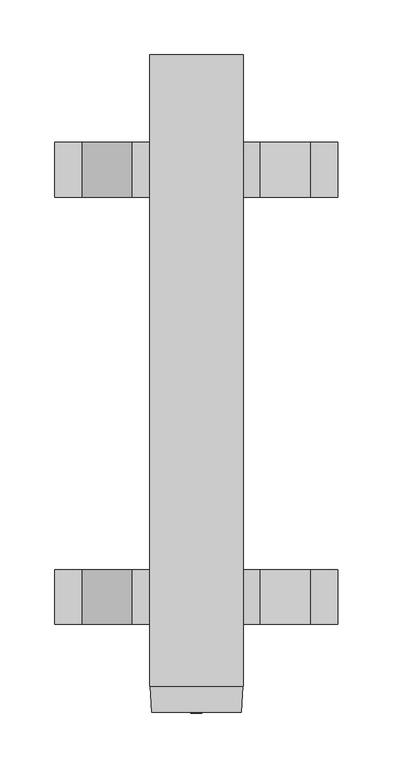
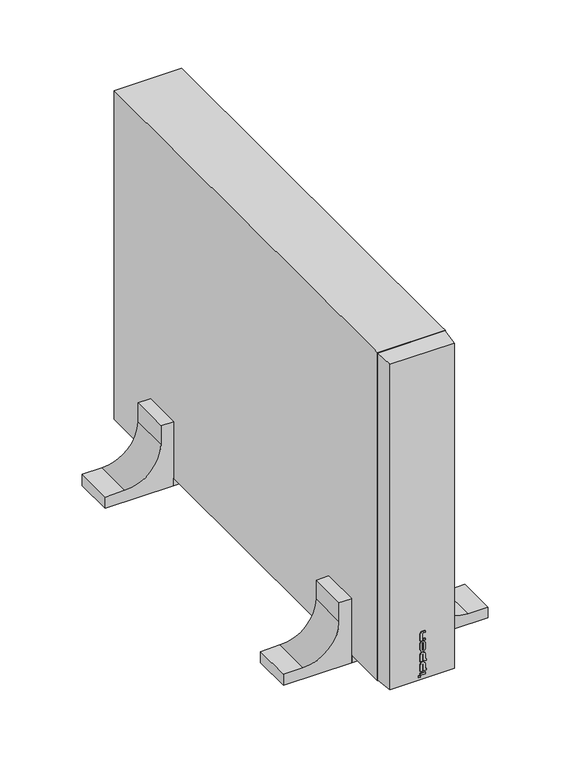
"""IFC4 building model written with IfcOpenShell, lengths in millimetres: proxy geometry, IPPON_EBM_Innova RT II_1000-1500_2000-3000ВА : EBM INNOVA RT II 2000/3000 ВА."""

from ifc_helpers import new_model, si_unit, point, frame, frame_2d, origin, origin_with_axes, place, context, project, spatial, polyline, circle_curve, trimmed, segment, composite_curve, outline, extrude, faceted_brep, source, transform, mapped, element, save


def electrical_equipment_a63d0ca0(model_context):
    return source(origin(), model_context, "Body", "SolidModel", [
        extrude(outline(polyline([(-2.7362511, -1.0), (-5.0362511, -1.0), (-5.0362511, 0.0), (-2.7362511, 0.0), (-2.7362511, -1.0)])), frame((0.0, 0.0, 16.0), z_axis=(0.0, 0.0, 1.0), x_axis=(1.0, 0.0, 0.0)), (0.0, 0.0, 1.0), 2.0),
        extrude(outline(polyline([(3.2637489, -1.0), (1.0369258, -1.0), (1.0369258, 0.0), (3.2637489, 0.0), (3.2637489, -1.0)])), frame((0.0, 0.0, 63.7753606), z_axis=(0.0, 0.0, 1.0), x_axis=(1.0, 0.0, 0.0)), (0.0, 0.0, 1.0), 2.0),
        extrude(outline(polyline([(3.2637489, -1.0), (-2.7362511, -1.0), (-2.7362511, 0.0), (3.2637489, 0.0), (3.2637489, -1.0)])), frame((0.0, 0.0, 18.6884808), z_axis=(0.0, 0.0, 1.0), x_axis=(1.0, 0.0, 0.0)), (0.0, 0.0, 1.0), 2.0447674),
        extrude(outline(composite_curve([segment(polyline([(22.9477024, -0.4738111), (32.1794597, -0.4738111)]), True, "CONTINUOUS"), segment(trimmed(circle_curve(frame_2d((32.1794597, 0.3826682)), 0.8564793), [point((32.1794597, -0.4738111))], [point((32.1794597, 1.2391475))], True, "CARTESIAN"), True, "CONTINUOUS"), segment(polyline([(32.1794597, 1.2391475), (22.9477024, 1.2391475), (22.9477024, 4.7296521), (24.9477024, 4.7296521), (24.9477024, 3.2637489), (32.0232097, 3.2637489)]), True, "CONTINUOUS"), segment(trimmed(circle_curve(frame_2d((32.0232097, 0.2637489)), 3.0), [point((32.0232097, 3.2637489))], [point((32.0232097, -2.7362511))], False, "CARTESIAN"), True, "CONTINUOUS"), segment(polyline([(32.0232097, -2.7362511), (22.9477024, -2.7362511), (22.9477024, -0.4738111)]), True, "CONTINUOUS")], self_intersect=False)), frame((0.0, -1.0, 0.0), z_axis=(0.0, 1.0, 0.0), x_axis=(0.0, 0.0, 1.0)), (0.0, 0.0, 1.0), 1.0),
        extrude(outline(composite_curve([segment(polyline([(36.1547042, -0.4738111), (45.3864614, -0.4738111)]), True, "CONTINUOUS"), segment(trimmed(circle_curve(frame_2d((45.3864614, 0.3826682)), 0.8564793), [point((45.3864614, -0.4738111))], [point((45.3864614, 1.2391475))], True, "CARTESIAN"), True, "CONTINUOUS"), segment(polyline([(45.3864614, 1.2391475), (36.1547042, 1.2391475), (36.1547042, 4.7296521), (38.1547042, 4.7296521), (38.1547042, 3.2637489), (45.2302114, 3.2637489)]), True, "CONTINUOUS"), segment(trimmed(circle_curve(frame_2d((45.2302114, 0.2637489)), 3.0), [point((45.2302114, 3.2637489))], [point((45.2302114, -2.7362511))], False, "CARTESIAN"), True, "CONTINUOUS"), segment(polyline([(45.2302114, -2.7362511), (36.1547042, -2.7362511), (36.1547042, -0.4738111)]), True, "CONTINUOUS")], self_intersect=False)), frame((0.0, -1.0, 0.0), z_axis=(0.0, 1.0, 0.0), x_axis=(0.0, 0.0, 1.0)), (0.0, 0.0, 1.0), 1.0),
        extrude(outline(composite_curve([segment(trimmed(circle_curve(frame_2d((59.7304703, 0.2637489)), 3.0), [point((59.7304703, 3.2637489))], [point((59.7304703, -2.7362511))], False, "CARTESIAN"), True, "CONTINUOUS"), segment(polyline([(59.7304703, -2.7362511), (52.1304703, -2.7362511)]), True, "CONTINUOUS"), segment(trimmed(circle_curve(frame_2d((52.1304703, 0.2637489)), 3.0), [point((52.1304703, -2.7362511))], [point((52.1304703, 3.2637489))], False, "CARTESIAN"), True, "CONTINUOUS"), segment(polyline([(52.1304703, 3.2637489), (59.7304703, 3.2637489)]), True, "CONTINUOUS")], self_intersect=False), holes=[composite_curve([segment(polyline([(59.8867203, 1.2391475), (51.9742203, 1.2391475)]), True, "CONTINUOUS"), segment(trimmed(circle_curve(frame_2d((51.9742203, 0.3826682)), 0.8564793), [point((51.9742203, 1.2391475))], [point((51.9742203, -0.4738111))], True, "CARTESIAN"), True, "CONTINUOUS"), segment(polyline([(51.9742203, -0.4738111), (59.8867203, -0.4738111)]), True, "CONTINUOUS"), segment(trimmed(circle_curve(frame_2d((59.8867203, 0.3826682)), 0.8564793), [point((59.8867203, -0.4738111))], [point((59.8867203, 1.2391475))], True, "CARTESIAN"), True, "CONTINUOUS")], self_intersect=False)]), frame((0.0, -1.0, 0.0), z_axis=(0.0, 1.0, 0.0), x_axis=(0.0, 0.0, 1.0)), (0.0, 0.0, 1.0), 1.0),
        extrude(outline(composite_curve([segment(polyline([(63.7753606, -0.4738111), (73.0071179, -0.4738111)]), True, "CONTINUOUS"), segment(trimmed(circle_curve(frame_2d((73.0071179, 0.3826682)), 0.8564793), [point((73.0071179, -0.4738111))], [point((73.8635972, 0.3826682))], True, "CARTESIAN"), True, "CONTINUOUS"), segment(polyline([(73.8635972, 0.3826682), (73.8635972, 3.2637489), (75.8036054, 3.2637489), (75.8036054, -0.2666676)]), True, "CONTINUOUS"), segment(trimmed(circle_curve(frame_2d((72.8508679, 0.2637489)), 3.0), [point((75.8036054, -0.2666676))], [point((72.8508679, -2.7362511))], False, "CARTESIAN"), True, "CONTINUOUS"), segment(polyline([(72.8508679, -2.7362511), (63.7753606, -2.7362511), (63.7753606, -0.4738111)]), True, "CONTINUOUS")], self_intersect=False)), frame((0.0, -1.0, 0.0), z_axis=(0.0, 1.0, 0.0), x_axis=(0.0, 0.0, 1.0)), (0.0, 0.0, 1.0), 1.0),
        extrude(outline(polyline([(-42.75, 520.0), (42.75, 520.0), (42.75, 470.0), (-42.75, 470.0), (-42.75, 520.0)])), origin_with_axes(), (0.0, 0.0, 1.0), 10.0),
        extrude(outline(polyline([(42.75, 80.0), (-42.75, 80.0), (-42.75, 130.0), (42.75, 130.0), (42.75, 80.0)])), origin_with_axes(), (0.0, 0.0, 1.0), 10.0),
        extrude(outline(composite_curve([segment(polyline([(0.0, -42.75), (85.5, -42.75), (85.5, -58.75), (60.5, -58.75)]), True, "CONTINUOUS"), segment(trimmed(circle_curve(frame_2d((60.5, -104.25)), 45.5), [point((60.5, -58.75))], [point((15.0, -104.25))], True, "CARTESIAN"), True, "CONTINUOUS"), segment(polyline([(15.0, -104.25), (15.0, -129.25), (0.0, -129.25), (0.0, -42.75)]), True, "CONTINUOUS")], self_intersect=False)), frame((0.0, 470.0, 0.0), z_axis=(0.0, 1.0, 0.0), x_axis=(0.0, 0.0, 1.0)), (0.0, 0.0, 1.0), 50.0),
        extrude(outline(composite_curve([segment(polyline([(0.0, -42.75), (85.5, -42.75), (85.5, -58.75), (60.5, -58.75)]), True, "CONTINUOUS"), segment(trimmed(circle_curve(frame_2d((60.5, -104.25)), 45.5), [point((60.5, -58.75))], [point((15.0, -104.25))], True, "CARTESIAN"), True, "CONTINUOUS"), segment(polyline([(15.0, -104.25), (15.0, -129.25), (0.0, -129.25), (0.0, -42.75)]), True, "CONTINUOUS")], self_intersect=False)), frame((0.0, 80.0, 0.0), z_axis=(0.0, 1.0, 0.0), x_axis=(0.0, 0.0, 1.0)), (0.0, 0.0, 1.0), 50.0),
        extrude(outline(composite_curve([segment(polyline([(0.0, 129.25), (14.0, 129.25), (14.0, 104.25)]), True, "CONTINUOUS"), segment(trimmed(circle_curve(frame_2d((60.5, 104.25)), 46.5), [point((14.0, 104.25))], [point((60.5, 57.75))], True, "CARTESIAN"), True, "CONTINUOUS"), segment(polyline([(60.5, 57.75), (85.5, 57.75), (85.5, 42.75), (0.0, 42.75), (0.0, 129.25)]), True, "CONTINUOUS")], self_intersect=False)), frame((0.0, 470.0, 0.0), z_axis=(0.0, 1.0, 0.0), x_axis=(0.0, 0.0, 1.0)), (0.0, 0.0, 1.0), 50.0),
        extrude(outline(composite_curve([segment(polyline([(0.0, 42.75), (0.0, 129.25), (14.0, 129.25), (14.0, 104.25)]), True, "CONTINUOUS"), segment(trimmed(circle_curve(frame_2d((60.5, 104.25)), 46.5), [point((14.0, 104.25))], [point((60.5, 57.75))], True, "CARTESIAN"), True, "CONTINUOUS"), segment(polyline([(60.5, 57.75), (85.5, 57.75), (85.5, 42.75), (0.0, 42.75)]), True, "CONTINUOUS")], self_intersect=False)), frame((0.0, 80.0, 0.0), z_axis=(0.0, 1.0, 0.0), x_axis=(0.0, 0.0, 1.0)), (0.0, 0.0, 1.0), 50.0),
        faceted_brep([(40.75, 0.0, 12.0), (40.75, 0.0, 446.0), (-40.75, 0.0, 446.0), (-40.75, 0.0, 12.0), (42.1748599, 23.5101876, 10.5751401), (42.1748599, 23.5101876, 447.4248599), (-42.1748599, 23.5101876, 447.4248599), (-42.1748599, 23.5101876, 10.5751401), (42.75, 600.0, 448.0), (42.75, 600.0, 10.0), (-42.75, 600.0, 10.0), (-42.75, 600.0, 448.0), (42.75, 23.5101876, 448.0), (-42.75, 23.5101876, 448.0), (-42.75, 23.5101876, 10.0), (42.75, 23.5101876, 10.0), (-42.75, 33.0, 448.0), (42.75, 33.0, 448.0), (-42.75, 33.0, 10.0), (42.75, 33.0, 10.0)], [[[0, 1, 2, 3]], [[1, 0, 4, 5]], [[2, 1, 5, 6]], [[3, 2, 6, 7]], [[0, 3, 7, 4]], [[8, 9, 10, 11]], [[12, 13, 14, 15], [5, 4, 7, 6]], [[8, 11, 16, 13, 12, 17]], [[11, 10, 18, 14, 13, 16]], [[10, 9, 19, 15, 14, 18]], [[9, 8, 17, 12, 15, 19]]]),
    ])


if __name__ == "__main__":
    model = new_model("IFC4")
    model_context = context("Model", 3, world=origin())
    ifc_project = project(units=[si_unit("LENGTHUNIT", "METRE", prefix="MILLI")], contexts=[model_context])
    site = spatial("IfcSite", under=ifc_project)
    building = spatial("IfcBuilding", under=site)
    placement = place(None, origin())
    electrical_equipment_shape = electrical_equipment_a63d0ca0(model_context)
    element("IfcBuildingElementProxy", 1, Name="IPPON_EBM_Innova RT II_1000-1500_2000-3000ВА : EBM INNOVA RT II 2000/3000 ВА", ObjectType="IPPON_EBM_Innova RT II_1000-1500_2000-3000ВА : EBM INNOVA RT II 2000/3000 ВА", at=placement, inside=building, context=model_context, shape_type="MappedRepresentation", body=[
        mapped(electrical_equipment_shape, transform((0.0, 0.0, 0.0), x_axis=(1.0, 0.0, 0.0), y_axis=(0.0, 1.0, 0.0), z_axis=(0.0, 0.0, 1.0))),
    ])
    save(model, "model.ifc")
